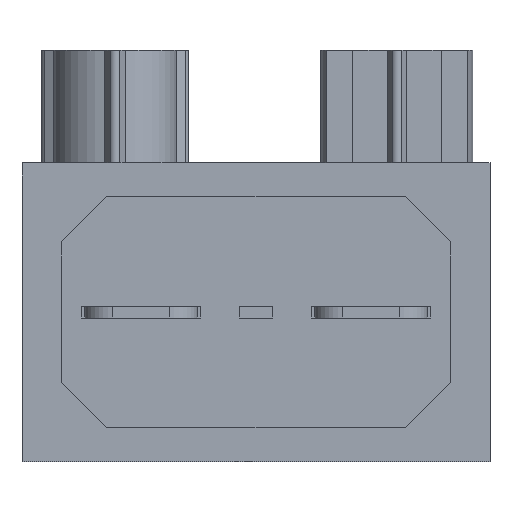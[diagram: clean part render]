
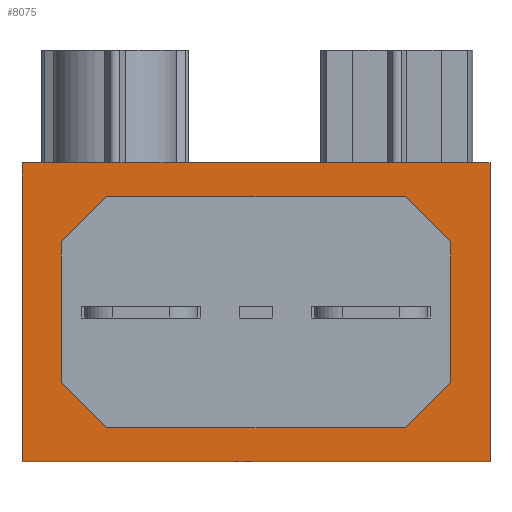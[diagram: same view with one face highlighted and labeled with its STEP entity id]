
A CAD part, front view. The second image highlights one B-rep face of the part: STEP entity #8075.
In plain terms, the highlighted planar face has unit normal (0, -1, 0).
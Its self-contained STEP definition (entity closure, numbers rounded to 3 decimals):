
#20 = ORIENTED_EDGE ( 'NONE', *, *, #64, .F. ) ;
#64 = EDGE_CURVE ( 'NONE', #98, #11070, #1366, .T. ) ;
#98 = VERTEX_POINT ( 'NONE', #1552 ) ;
#158 = ORIENTED_EDGE ( 'NONE', *, *, #201, .F. ) ;
#201 = EDGE_CURVE ( 'NONE', #237, #98, #2235, .T. ) ;
#237 = VERTEX_POINT ( 'NONE', #2418 ) ;
#303 = ORIENTED_EDGE ( 'NONE', *, *, #349, .F. ) ;
#349 = EDGE_CURVE ( 'NONE', #381, #237, #3131, .T. ) ;
#381 = VERTEX_POINT ( 'NONE', #3268 ) ;
#446 = ORIENTED_EDGE ( 'NONE', *, *, #493, .F. ) ;
#493 = EDGE_CURVE ( 'NONE', #524, #381, #4763, .T. ) ;
#524 = VERTEX_POINT ( 'NONE', #5045 ) ;
#613 = ORIENTED_EDGE ( 'NONE', *, *, #660, .F. ) ;
#660 = EDGE_CURVE ( 'NONE', #689, #524, #5760, .T. ) ;
#689 = VERTEX_POINT ( 'NONE', #5934 ) ;
#712 = VERTEX_POINT ( 'NONE', #6029 ) ;
#748 = ORIENTED_EDGE ( 'NONE', *, *, #796, .F. ) ;
#796 = EDGE_CURVE ( 'NONE', #828, #689, #6452, .T. ) ;
#823 = EDGE_CURVE ( 'NONE', #5446, #712, #6887, .T. ) ;
#828 = VERTEX_POINT ( 'NONE', #6901 ) ;
#896 = ORIENTED_EDGE ( 'NONE', *, *, #941, .F. ) ;
#941 = EDGE_CURVE ( 'NONE', #11098, #828, #7553, .T. ) ;
#1062 = VERTEX_POINT ( 'NONE', #8142 ) ;
#1366 = LINE ( 'NONE', #1367, #1368 ) ;
#1367 = CARTESIAN_POINT ( 'NONE',  ( -0.65, -3.5, -3.776 ) ) ;
#1368 = VECTOR ( 'NONE', #1369, 1000. ) ;
#1369 = DIRECTION ( 'NONE',  ( 0.707, 0., -0.707 ) ) ;
#1552 = CARTESIAN_POINT ( 'NONE',  ( -0.65, -3.5, -3.776 ) ) ;
#2235 = LINE ( 'NONE', #2236, #2237 ) ;
#2236 = CARTESIAN_POINT ( 'NONE',  ( -0.65, -3.5, -1.524 ) ) ;
#2237 = VECTOR ( 'NONE', #2238, 1000. ) ;
#2238 = DIRECTION ( 'NONE',  ( 0., 0., -1. ) ) ;
#2418 = CARTESIAN_POINT ( 'NONE',  ( -0.65, -3.5, -1.524 ) ) ;
#3131 = LINE ( 'NONE', #3132, #3133 ) ;
#3132 = CARTESIAN_POINT ( 'NONE',  ( -0.026, -3.5, -0.9 ) ) ;
#3133 = VECTOR ( 'NONE', #3134, 1000. ) ;
#3134 = DIRECTION ( 'NONE',  ( -0.707, 0., -0.707 ) ) ;
#3230 = CARTESIAN_POINT ( 'NONE',  ( -1.65, -3.5, 0. ) ) ;
#3268 = CARTESIAN_POINT ( 'NONE',  ( -0.026, -3.5, -0.9 ) ) ;
#4749 = LINE ( 'NONE', #4750, #4751 ) ;
#4750 = CARTESIAN_POINT ( 'NONE',  ( 6.65, -3.5, 0. ) ) ;
#4751 = VECTOR ( 'NONE', #4752, 1000. ) ;
#4752 = DIRECTION ( 'NONE',  ( 1., 0., 0. ) ) ;
#4763 = LINE ( 'NONE', #4764, #4765 ) ;
#4764 = CARTESIAN_POINT ( 'NONE',  ( 5.026, -3.5, -0.9 ) ) ;
#4765 = VECTOR ( 'NONE', #4766, 1000. ) ;
#4766 = DIRECTION ( 'NONE',  ( -1., 0., 0. ) ) ;
#5010 = CARTESIAN_POINT ( 'NONE',  ( 6.65, -3.5, 0. ) ) ;
#5045 = CARTESIAN_POINT ( 'NONE',  ( 5.026, -3.5, -0.9 ) ) ;
#5446 = VERTEX_POINT ( 'NONE', #3230 ) ;
#5760 = LINE ( 'NONE', #5761, #5763 ) ;
#5761 = CARTESIAN_POINT ( 'NONE',  ( 5.65, -3.5, -1.524 ) ) ;
#5763 = VECTOR ( 'NONE', #5764, 1000. ) ;
#5764 = DIRECTION ( 'NONE',  ( -0.707, 0., 0.707 ) ) ;
#5934 = CARTESIAN_POINT ( 'NONE',  ( 5.65, -3.5, -1.524 ) ) ;
#6016 = LINE ( 'NONE', #6017, #6018 ) ;
#6017 = CARTESIAN_POINT ( 'NONE',  ( 6.65, -3.5, 0. ) ) ;
#6018 = VECTOR ( 'NONE', #6019, 1000. ) ;
#6019 = DIRECTION ( 'NONE',  ( 0., 0., -1. ) ) ;
#6029 = CARTESIAN_POINT ( 'NONE',  ( -1.65, -3.5, -5.3 ) ) ;
#6211 = EDGE_CURVE ( 'NONE', #5446, #6448, #4749, .T. ) ;
#6281 = FACE_OUTER_BOUND ( 'NONE', #8393, .T. ) ;
#6282 = FACE_BOUND ( 'NONE', #10804, .T. ) ;
#6283 = PLANE ( 'NONE',  #6284 ) ;
#6284 = AXIS2_PLACEMENT_3D ( 'NONE', #6285, #6286, #6289 ) ;
#6285 = CARTESIAN_POINT ( 'NONE',  ( 6.65, -3.5, 0. ) ) ;
#6286 = DIRECTION ( 'NONE',  ( 0., 1., 0. ) ) ;
#6289 = DIRECTION ( 'NONE',  ( -1., 0., 0. ) ) ;
#6448 = VERTEX_POINT ( 'NONE', #5010 ) ;
#6452 = LINE ( 'NONE', #6453, #6454 ) ;
#6453 = CARTESIAN_POINT ( 'NONE',  ( 5.65, -3.5, -3.776 ) ) ;
#6454 = VECTOR ( 'NONE', #6455, 1000. ) ;
#6455 = DIRECTION ( 'NONE',  ( 0., 0., 1. ) ) ;
#6887 = LINE ( 'NONE', #6888, #6889 ) ;
#6888 = CARTESIAN_POINT ( 'NONE',  ( -1.65, -3.5, 0. ) ) ;
#6889 = VECTOR ( 'NONE', #6890, 1000. ) ;
#6890 = DIRECTION ( 'NONE',  ( 0., 0., -1. ) ) ;
#6901 = CARTESIAN_POINT ( 'NONE',  ( 5.65, -3.5, -3.776 ) ) ;
#7268 = LINE ( 'NONE', #7269, #7270 ) ;
#7269 = CARTESIAN_POINT ( 'NONE',  ( 6.65, -3.5, -5.3 ) ) ;
#7270 = VECTOR ( 'NONE', #7271, 1000. ) ;
#7271 = DIRECTION ( 'NONE',  ( 1., 0., 0. ) ) ;
#7553 = LINE ( 'NONE', #7554, #7555 ) ;
#7554 = CARTESIAN_POINT ( 'NONE',  ( 5.026, -3.5, -4.4 ) ) ;
#7555 = VECTOR ( 'NONE', #7556, 1000. ) ;
#7556 = DIRECTION ( 'NONE',  ( 0.707, 0., 0.707 ) ) ;
#7804 = EDGE_CURVE ( 'NONE', #6448, #1062, #6016, .T. ) ;
#8075 = ADVANCED_FACE ( 'NONE', ( #6281, #6282 ), #6283, .F. ) ;
#8142 = CARTESIAN_POINT ( 'NONE',  ( 6.65, -3.5, -5.3 ) ) ;
#8393 = EDGE_LOOP ( 'NONE', ( #8840, #9635, #10103, #10585 ) ) ;
#8840 = ORIENTED_EDGE ( 'NONE', *, *, #9155, .T. ) ;
#9155 = EDGE_CURVE ( 'NONE', #712, #1062, #7268, .T. ) ;
#9311 = LINE ( 'NONE', #9312, #9313 ) ;
#9312 = CARTESIAN_POINT ( 'NONE',  ( -0.026, -3.5, -4.4 ) ) ;
#9313 = VECTOR ( 'NONE', #9314, 1000. ) ;
#9314 = DIRECTION ( 'NONE',  ( 1., 0., 0. ) ) ;
#9498 = CARTESIAN_POINT ( 'NONE',  ( -0.026, -3.5, -4.4 ) ) ;
#9625 = CARTESIAN_POINT ( 'NONE',  ( 5.026, -3.5, -4.4 ) ) ;
#9635 = ORIENTED_EDGE ( 'NONE', *, *, #7804, .F. ) ;
#10103 = ORIENTED_EDGE ( 'NONE', *, *, #6211, .F. ) ;
#10585 = ORIENTED_EDGE ( 'NONE', *, *, #823, .T. ) ;
#10804 = EDGE_LOOP ( 'NONE', ( #11003, #20, #158, #303, #446, #613, #748, #896 ) ) ;
#11003 = ORIENTED_EDGE ( 'NONE', *, *, #11043, .F. ) ;
#11043 = EDGE_CURVE ( 'NONE', #11070, #11098, #9311, .T. ) ;
#11070 = VERTEX_POINT ( 'NONE', #9498 ) ;
#11098 = VERTEX_POINT ( 'NONE', #9625 ) ;
